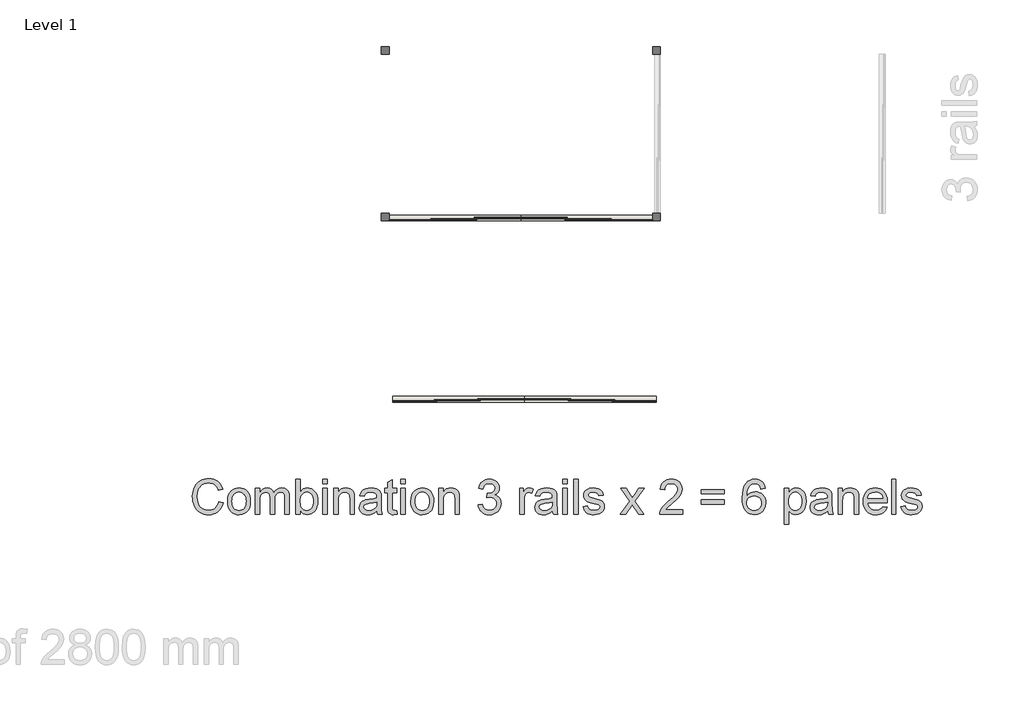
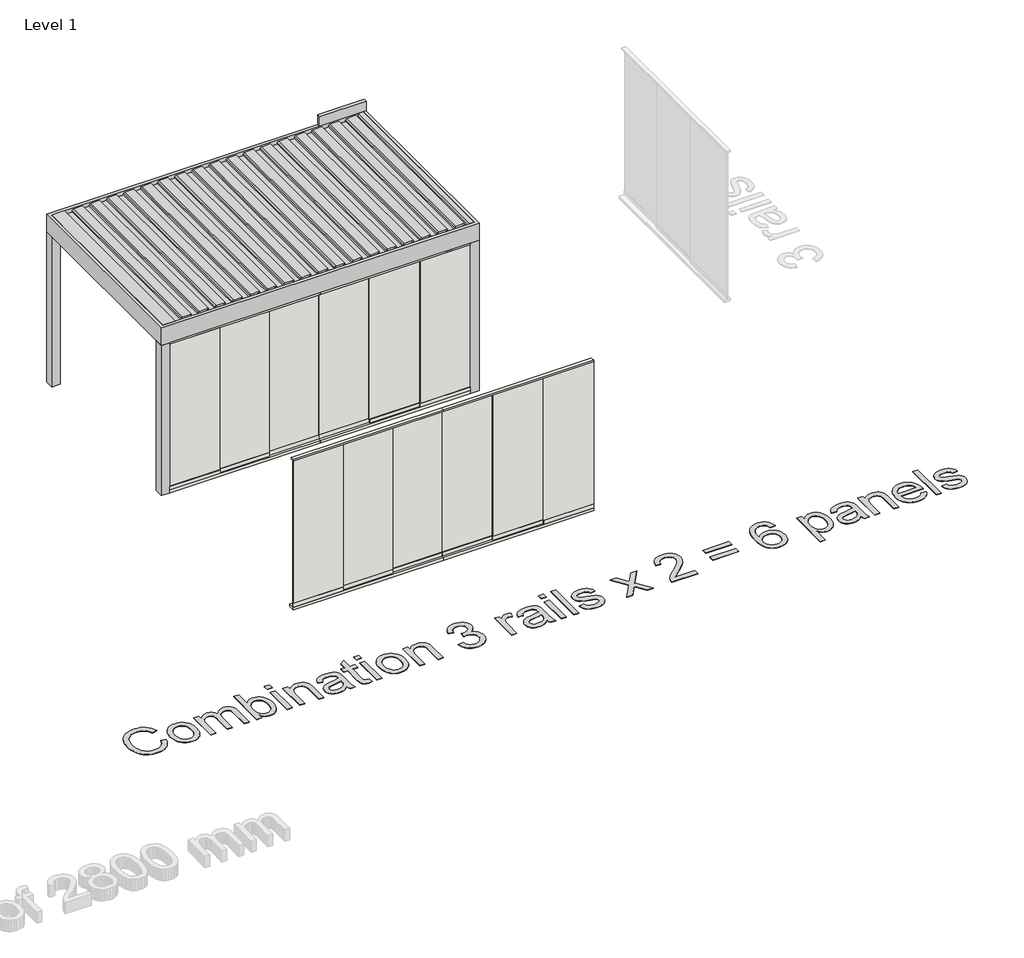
# One storey, part 8 of 47: 4 walls, 2 proxies.
"""IFC4 building model written with IfcOpenShell, lengths in millimetres."""

from ifc_helpers import new_model, si_unit, origin, origin_with_axes, place, context, project, spatial, polyline, outline, extrude, transform, mapped, element, save
from components import generic_models_6c472f40, wall_7f3c542c, wall_f5962ba5

model = new_model("IFC4")

# Units and contexts
model_context = context("Model", 3, world=origin())
ifc_project = project(units=[si_unit("LENGTHUNIT", "METRE", prefix="MILLI")], contexts=[model_context])

# Site, building, storey
site = spatial("IfcSite", under=ifc_project)
building = spatial("IfcBuilding", under=site)
storey = spatial("IfcBuildingStorey", under=building, Name="Level 1", Elevation=0.0)

# Proxies
placement = place(None, origin())
generic_models_shape = generic_models_6c472f40(model_context)
element("IfcBuildingElementProxy", 1, Name="Renson_Algarve_Single : Algarve - Single", ObjectType="Renson_Algarve_Single : Algarve - Single", at=placement, inside=storey, context=model_context, shape_type="MappedRepresentation", body=[
    mapped(generic_models_shape, transform((188362.4238385, -40247.1209465, 0.0), x_axis=(1.0, 0.0, 0.0), y_axis=(0.0, 1.0, 0.0), z_axis=(0.0, 0.0, 1.0))),
])
element("IfcBuildingElementProxy", 2, Name="500mm Arial", ObjectType="500mm Arial", at=placement, inside=storey, context=model_context, shape_type="SweptSolid", body=[
    extrude(outline(polyline([(184028.3792923, -45527.1410511), (184091.1644861, -45543.3278589), (184078.7408046, -45582.3731678), (184062.193779, -45616.4903907), (184041.5234094, -45645.6795278), (184016.7296958, -45669.9405789), (183988.3721253, -45689.0129611), (183957.0101852, -45702.6360912), (183922.6438755, -45710.8099693), (183885.2731961, -45713.5345953), (183846.9866439, -45711.4729233), (183812.4478895, -45705.2879073), (183781.6569329, -45694.9795472), (183754.6137742, -45680.5478431), (183730.9466992, -45662.2073928), (183710.2839938, -45640.1727941), (183692.625658, -45614.4440471), (183677.9716919, -45585.0211517), (183666.4638832, -45553.1763665), (183658.2440199, -45520.18195), (183653.3121019, -45486.0379024), (183651.6681292, -45450.7442235), (183653.5266997, -45412.8753706), (183659.1024112, -45377.5050496), (183668.3952637, -45344.6332605), (183681.4052571, -45314.2600032), (183697.8411517, -45286.8872835), (183717.4117074, -45263.017107), (183740.1169243, -45242.6494736), (183765.9568024, -45225.7843834), (183794.0537898, -45212.5597921), (183823.5303346, -45203.1136555), (183854.386437, -45197.4459735), (183886.6220968, -45195.5567461), (183922.5327445, -45198.0016286), (183955.4620151, -45205.3362758), (183985.4099088, -45217.560688), (184012.3764255, -45234.674865), (184035.9170411, -45256.2266185), (184055.5872315, -45281.7637603), (184071.3869968, -45311.2862905), (184083.3163369, -45344.7942088), (184020.531143, -45359.7547433), (184010.6443144, -45335.0644965), (183998.7647917, -45313.9687633), (183984.8925748, -45296.4675438), (183969.0276637, -45282.560838), (183951.078088, -45271.9650701), (183930.9518772, -45264.3966645), (183908.6490313, -45259.8556211), (183884.1695502, -45258.34194), (183856.0035849, -45260.0204016), (183830.244181, -45265.0557864), (183806.8913385, -45273.4480944), (183785.9450574, -45285.1973256), (183767.6697529, -45299.7746497), (183752.3298401, -45316.6512362), (183739.9253191, -45335.8270852), (183730.4561898, -45357.3021967), (183718.4540397, -45403.2567892), (183714.453323, -45450.6215961), (183719.1898037, -45508.624324), (183733.3992458, -45558.7789027), (183744.190451, -45580.4341231), (183757.6181438, -45599.1692801), (183773.6823243, -45614.9843738), (183792.3829924, -45627.8794041), (183834.0609567, -45645.0319022), (183879.0192022, -45650.7494015), (183906.3152798, -45648.8026926), (183931.4270581, -45642.9625659), (183954.354537, -45633.2290215), (183975.0977166, -45619.6020592), (183993.1660875, -45602.1429929), (184008.0691404, -45580.9131361), (184019.8068754, -45555.9124888), (184028.3792923, -45527.1410511)])), origin_with_axes(), (0.0, 0.0, 1.0), 5.0),
    extrude(outline(polyline([(184153.94968, -45521.2549392), (184157.3449242, -45473.4839293), (184167.5306569, -45432.3194669), (184184.5068782, -45397.7615519), (184208.2735879, -45369.8101845), (184232.201246, -45351.9449151), (184258.6121076, -45339.1840084), (184287.5061726, -45331.5274644), (184318.8834411, -45328.9752831), (184353.5218302, -45332.0831195), (184384.8416172, -45341.4066288), (184412.842802, -45356.945811), (184437.5253846, -45378.7006661), (184457.6707559, -45405.93543), (184472.0603069, -45437.9143389), (184480.6940374, -45474.6373926), (184483.5719476, -45516.1045913), (184478.4829134, -45579.5335786), (184472.1216205, -45605.568894), (184463.2158106, -45627.8180905), (184451.8766145, -45647.0360926), (184438.2151633, -45663.9778249), (184422.231457, -45678.6432874), (184403.9254957, -45691.03248), (184363.1978931, -45707.9090665), (184318.8834411, -45713.5345953), (184283.7392143, -45710.4382552), (184252.1281874, -45701.1492348), (184224.0503606, -45685.6675342), (184199.5057337, -45663.9931533), (184179.5749602, -45636.4939742), (184165.3386934, -45603.5378788), (184156.7969333, -45565.1248671), (184153.94968, -45521.2549392)]), holes=[polyline([(184216.7348738, -45521.1323119), (184218.5512911, -45551.5860433), (184224.0005432, -45577.9547517), (184233.08263, -45600.2384371), (184245.7975514, -45618.4370996), (184261.2639236, -45632.5737317), (184278.6003627, -45642.671326), (184297.8068685, -45648.7298826), (184318.8834411, -45650.7494015), (184339.8527148, -45648.7183863), (184358.9825786, -45642.6253408), (184376.2730324, -45632.4702649), (184391.7240762, -45618.2531586), (184404.4389976, -45599.8743872), (184413.5210844, -45577.2343161), (184418.9703364, -45550.3329452), (184420.7867538, -45519.1702746), (184418.9588401, -45489.6822334), (184413.4750991, -45464.0033037), (184404.3355308, -45442.1334855), (184391.5401352, -45424.0727788), (184376.0316098, -45409.9361467), (184358.7526524, -45399.8385524), (184339.7032628, -45393.7799958), (184318.8834411, -45391.7604769), (184297.8068685, -45393.7723316), (184278.6003627, -45399.8078955), (184261.2639236, -45409.8671688), (184245.7975514, -45423.9501515), (184233.08263, -45442.0951645), (184224.0005432, -45464.3405289), (184218.5512911, -45490.6862447), (184216.7348738, -45521.1323119)])]), origin_with_axes(), (0.0, 0.0, 1.0), 5.0),
    extrude(outline(polyline([(184554.2052907, -45705.6864461), (184554.2052907, -45336.8234323), (184616.9904845, -45336.8234323), (184616.9904845, -45397.5239615), (184635.8750936, -45369.6415719), (184660.1553053, -45347.7985785), (184689.0033851, -45333.6811069), (184721.5915985, -45328.9752831), (184756.5097312, -45333.7730774), (184784.4994197, -45348.1664605), (184805.4073797, -45371.2050704), (184819.0803272, -45401.9385454), (184841.965653, -45370.0171181), (184868.0699463, -45347.2160986), (184897.393207, -45333.535487), (184929.9354351, -45328.9752831), (184955.070206, -45330.8721746), (184977.1316294, -45336.5628492), (184996.1197053, -45346.0473069), (185012.0344337, -45359.3255477), (185024.6152315, -45376.5508557), (185033.6015157, -45397.8765151), (185038.9932862, -45423.3025259), (185040.790543, -45452.8288881), (185040.790543, -45705.6864461), (184978.0053491, -45705.6864461), (184978.0053491, -45479.8069011), (184976.5491496, -45448.4909462), (184972.1805509, -45427.3837168), (184963.9951765, -45412.92902), (184951.0886498, -45401.5706634), (184934.4879748, -45394.2130235), (184915.2201553, -45391.7604769), (184897.4276959, -45393.3316396), (184881.2063992, -45398.0451276), (184866.5562651, -45405.9009411), (184853.4772938, -45416.8990799), (184842.7205775, -45431.3614408), (184835.0372088, -45449.6099206), (184830.4271875, -45471.6445193), (184828.8905138, -45497.4652368), (184828.8905138, -45705.6864461), (184766.1053199, -45705.6864461), (184766.1053199, -45472.8171432), (184762.4724852, -45437.3165306), (184751.5739811, -45411.9939866), (184743.1471842, -45403.1418261), (184732.3981321, -45396.8188543), (184703.9332627, -45391.7604769), (184679.7450216, -45395.1327285), (184657.457504, -45405.2494834), (184639.0634043, -45421.8654868), (184626.5554164, -45444.7354842), (184619.3817175, -45476.4653063), (184616.9904845, -45519.6607839), (184616.9904845, -45705.6864461), (184554.2052907, -45705.6864461)])), origin_with_axes(), (0.0, 0.0, 1.0), 5.0),
    extrude(outline(polyline([(185197.7535276, -45705.6864461), (185134.9683338, -45705.6864461), (185134.9683338, -45203.4048954), (185197.7535276, -45203.4048954), (185197.7535276, -45389.6758123), (185218.4009046, -45363.1193307), (185241.715426, -45344.1504154), (185267.6970919, -45332.7690661), (185296.3459023, -45328.9752831), (185328.6888611, -45332.3935199), (185359.2537235, -45342.6482305), (185386.2930501, -45359.0956214), (185408.0594015, -45381.091899), (185425.119929, -45408.4224656), (185438.0417841, -45440.8727233), (185446.1811733, -45477.0937714), (185448.894303, -45515.7367093), (185446.0853707, -45560.3270728), (185437.6585737, -45599.5524905), (185423.6139121, -45633.4129625), (185403.9513859, -45661.9084887), (185380.3494566, -45684.4949103), (185354.486586, -45700.6280687), (185326.3627739, -45710.3079637), (185295.9780203, -45713.5345953), (185266.3865123, -45709.3729303), (185240.1519275, -45696.8879351), (185217.274266, -45676.0796097), (185197.7535276, -45646.9479542), (185197.7535276, -45705.6864461)]), holes=[polyline([(185197.7535276, -45518.6797652), (185202.0454842, -45571.0416359), (185207.41043, -45590.8766068), (185214.921354, -45606.4809347), (185230.1348074, -45625.848389), (185247.8161358, -45639.6822848), (185267.9653392, -45647.9826223), (185290.5824177, -45650.7494015), (185309.3597279, -45648.7107221), (185326.8187942, -45642.5946839), (185342.9596168, -45632.401287), (185357.7821955, -45618.1305313), (185370.1752202, -45599.8207378), (185379.0273807, -45577.5102276), (185384.338677, -45551.1990008), (185386.1091091, -45520.8870572), (185384.411487, -45490.000298), (185379.3186206, -45463.4361523), (185370.83051, -45441.19462), (185358.9471552, -45423.2757011), (185344.6572389, -45409.4877905), (185328.9494441, -45399.639283), (185311.8237708, -45393.7301784), (185293.280219, -45391.7604769), (185274.5029088, -45393.7991563), (185257.0438425, -45399.9151945), (185240.90302, -45410.1085914), (185226.0804412, -45424.3793471), (185213.6874165, -45442.5051996), (185204.835256, -45464.2638868), (185199.5239597, -45489.6554087), (185197.7535276, -45518.6797652)])]), origin_with_axes(), (0.0, 0.0, 1.0), 5.0),
    extrude(outline(polyline([(185519.527646, -45705.6864461), (185519.527646, -45336.8234323), (185582.3128399, -45336.8234323), (185582.3128399, -45705.6864461), (185519.527646, -45705.6864461)])), origin_with_axes(), (0.0, 0.0, 1.0), 5.0),
    extrude(outline(polyline([(185519.527646, -45266.1900892), (185519.527646, -45203.4048954), (185582.3128399, -45203.4048954), (185582.3128399, -45266.1900892), (185519.527646, -45266.1900892)])), origin_with_axes(), (0.0, 0.0, 1.0), 5.0),
    extrude(outline(polyline([(185676.4906307, -45705.6864461), (185676.4906307, -45336.8234323), (185739.2758245, -45336.8234323), (185739.2758245, -45388.3269116), (185761.0881611, -45362.3605741), (185787.2844249, -45343.8131902), (185817.8646157, -45332.6847598), (185852.8287337, -45328.9752831), (185883.7768065, -45331.9643243), (185912.1190486, -45340.9314479), (185935.7554668, -45354.7576795), (185952.586068, -45372.3240448), (185964.0057383, -45393.5845585), (185971.4093635, -45418.4932352), (185974.7203014, -45479.1937644), (185974.7203014, -45705.6864461), (185911.9351076, -45705.6864461), (185911.9351076, -45487.6550503), (185910.1263544, -45455.1894642), (185904.700095, -45432.104869), (185894.690639, -45415.5655077), (185879.1322963, -45402.7356231), (185859.1900265, -45394.5042634), (185836.0287892, -45391.7604769), (185816.9640713, -45393.3009827), (185799.2559181, -45397.9225003), (185782.9043299, -45405.6250296), (185767.9093065, -45416.4085706), (185755.3821581, -45431.4993966), (185746.434195, -45452.1237809), (185741.0654171, -45478.2817236), (185739.2758245, -45509.9732247), (185739.2758245, -45705.6864461), (185676.4906307, -45705.6864461)])), origin_with_axes(), (0.0, 0.0, 1.0), 5.0),
    extrude(outline(polyline([(186296.4944199, -45658.5975507), (186266.4967088, -45684.3186336), (186235.6099497, -45701.1492348), (186203.1290352, -45710.4382552), (186168.3488582, -45713.5345953), (186140.3936587, -45711.6721927), (186115.8796886, -45706.0849849), (186094.8069481, -45696.7729719), (186077.1754371, -45683.7361537), (186063.2534028, -45667.8022648), (186053.3090926, -45649.7990397), (186047.3425065, -45629.7264783), (186045.3536445, -45607.5845807), (186048.3580141, -45581.5569296), (186057.371123, -45557.9205114), (186071.2739967, -45537.6870016), (186088.9476609, -45521.8680759), (186109.7176652, -45509.911911), (186132.9095593, -45501.2666841), (186187.2334673, -45491.8243796), (186251.4288755, -45481.8915657), (186296.1265379, -45470.2419692), (186296.4944199, -45456.2624534), (186292.1718064, -45428.2421081), (186279.2039661, -45409.909322), (186266.1288268, -45401.9692023), (186250.2026021, -45396.2976882), (186209.7968963, -45391.7604769), (186172.3955602, -45394.7801749), (186146.2759385, -45403.8392691), (186128.4643186, -45420.5932283), (186115.9869876, -45446.6975215), (186053.2017937, -45438.8493723), (186064.1002978, -45404.5137194), (186080.3637477, -45377.5357064), (186103.5096566, -45356.9036579), (186135.0555376, -45341.6058982), (186173.6371619, -45332.1329368), (186217.8903002, -45328.9752831), (186260.3346854, -45331.7650548), (186293.9805596, -45340.1343702), (186319.3490888, -45352.7190002), (186336.9614393, -45368.1547155), (186348.6416927, -45387.238594), (186356.2139304, -45410.7677133), (186359.2796137, -45465.7047579), (186359.2796137, -45543.8183682), (186362.4679243, -45652.8953798), (186367.1890766, -45679.8580644), (186374.9759122, -45705.6864461), (186312.1907183, -45705.6864461), (186302.1352771, -45683.8587811), (186296.4944199, -45658.5975507)]), holes=[polyline([(186296.4944199, -45533.027163), (186254.3106177, -45543.4811431), (186195.2042439, -45552.2796541), (186141.1869042, -45562.4577227), (186127.1307463, -45569.4168237), (186116.7227516, -45579.0124124), (186110.2848166, -45590.5087248), (186108.1388383, -45603.1699968), (186112.8140054, -45621.840008), (186126.8395064, -45637.1377677), (186149.9087732, -45647.346493), (186181.7152374, -45650.7494015), (186215.4377536, -45646.9939395), (186245.2361952, -45635.7275534), (186269.3937796, -45619.1268783), (186286.193724, -45599.3685495), (186293.6433344, -45579.0124124), (186296.1265379, -45550.8081261), (186296.4944199, -45533.027163)])]), origin_with_axes(), (0.0, 0.0, 1.0), 5.0),
    extrude(outline(polyline([(186579.0277922, -45653.3245755), (186586.8759414, -45707.5258561), (186539.9096733, -45713.5345953), (186509.7740066, -45710.9287645), (186487.302548, -45703.1112721), (186471.4223086, -45691.0631368), (186461.060299, -45675.7653772), (186455.3581281, -45649.4924713), (186453.4574045, -45604.5188974), (186453.4574045, -45399.6086261), (186406.3685091, -45399.6086261), (186406.3685091, -45336.8234323), (186453.4574045, -45336.8234323), (186453.4574045, -45247.1828528), (186516.2425983, -45210.2720259), (186516.2425983, -45336.8234323), (186579.0277922, -45336.8234323), (186579.0277922, -45399.6086261), (186516.2425983, -45399.6086261), (186516.2425983, -45602.6794875), (186519.5535363, -45635.053103), (186530.2834278, -45646.5187586), (186551.6818972, -45650.7494015), (186579.0277922, -45653.3245755)])), origin_with_axes(), (0.0, 0.0, 1.0), 5.0),
    extrude(outline(polyline([(186641.812986, -45705.6864461), (186641.812986, -45336.8234323), (186704.5981798, -45336.8234323), (186704.5981798, -45705.6864461), (186641.812986, -45705.6864461)])), origin_with_axes(), (0.0, 0.0, 1.0), 5.0),
    extrude(outline(polyline([(186641.812986, -45266.1900892), (186641.812986, -45203.4048954), (186704.5981798, -45203.4048954), (186704.5981798, -45266.1900892), (186641.812986, -45266.1900892)])), origin_with_axes(), (0.0, 0.0, 1.0), 5.0),
    extrude(outline(polyline([(186783.0796722, -45521.2549392), (186786.4749164, -45473.4839293), (186796.6606491, -45432.3194669), (186813.6368704, -45397.7615519), (186837.4035801, -45369.8101845), (186861.3312382, -45351.9449151), (186887.7420998, -45339.1840084), (186916.6361648, -45331.5274644), (186948.0134333, -45328.9752831), (186982.6518224, -45332.0831195), (187013.9716094, -45341.4066288), (187041.9727942, -45356.945811), (187066.6553768, -45378.7006661), (187086.8007481, -45405.93543), (187101.1902991, -45437.9143389), (187109.8240296, -45474.6373926), (187112.7019398, -45516.1045913), (187107.6129056, -45579.5335786), (187101.2516127, -45605.568894), (187092.3458028, -45627.8180905), (187081.0066067, -45647.0360926), (187067.3451555, -45663.9778249), (187051.3614492, -45678.6432874), (187033.0554879, -45691.03248), (186992.3278853, -45707.9090665), (186948.0134333, -45713.5345953), (186912.8692065, -45710.4382552), (186881.2581796, -45701.1492348), (186853.1803528, -45685.6675342), (186828.6357259, -45663.9931533), (186808.7049524, -45636.4939742), (186794.4686856, -45603.5378788), (186785.9269255, -45565.1248671), (186783.0796722, -45521.2549392)]), holes=[polyline([(186845.864866, -45521.1323119), (186847.6812833, -45551.5860433), (186853.1305354, -45577.9547517), (186862.2126222, -45600.2384371), (186874.9275436, -45618.4370996), (186890.3939158, -45632.5737317), (186907.7303548, -45642.671326), (186926.9368607, -45648.7298826), (186948.0134333, -45650.7494015), (186968.982707, -45648.7183863), (186988.1125708, -45642.6253408), (187005.4030246, -45632.4702649), (187020.8540684, -45618.2531586), (187033.5689898, -45599.8743872), (187042.6510766, -45577.2343161), (187048.1003286, -45550.3329452), (187049.916746, -45519.1702746), (187048.0888323, -45489.6822334), (187042.6050913, -45464.0033037), (187033.465523, -45442.1334855), (187020.6701274, -45424.0727788), (187005.161602, -45409.9361467), (186987.8826445, -45399.8385524), (186968.833255, -45393.7799958), (186948.0134333, -45391.7604769), (186926.9368607, -45393.7723316), (186907.7303548, -45399.8078955), (186890.3939158, -45409.8671688), (186874.9275436, -45423.9501515), (186862.2126222, -45442.0951645), (186853.1305354, -45464.3405289), (186847.6812833, -45490.6862447), (186845.864866, -45521.1323119)])]), origin_with_axes(), (0.0, 0.0, 1.0), 5.0),
    extrude(outline(polyline([(187183.3352829, -45705.6864461), (187183.3352829, -45336.8234323), (187246.1204767, -45336.8234323), (187246.1204767, -45388.3269116), (187267.9328134, -45362.3605741), (187294.1290771, -45343.8131902), (187324.709268, -45332.6847598), (187359.6733859, -45328.9752831), (187390.6214588, -45331.9643243), (187418.9637008, -45340.9314479), (187442.600119, -45354.7576795), (187459.4307203, -45372.3240448), (187470.8503905, -45393.5845585), (187478.2540157, -45418.4932352), (187481.5649537, -45479.1937644), (187481.5649537, -45705.6864461), (187418.7797598, -45705.6864461), (187418.7797598, -45487.6550503), (187416.9710067, -45455.1894642), (187411.5447472, -45432.104869), (187401.5352913, -45415.5655077), (187385.9769486, -45402.7356231), (187366.0346788, -45394.5042634), (187342.8734415, -45391.7604769), (187323.8087235, -45393.3009827), (187306.1005704, -45397.9225003), (187289.7489821, -45405.6250296), (187274.7539587, -45416.4085706), (187262.2268103, -45431.4993966), (187253.2788472, -45452.1237809), (187247.9100694, -45478.2817236), (187246.1204767, -45509.9732247), (187246.1204767, -45705.6864461), (187183.3352829, -45705.6864461)])), origin_with_axes(), (0.0, 0.0, 1.0), 5.0),
    extrude(outline(polyline([(187748.4020275, -45572.2679092), (187811.1872213, -45564.41976), (187825.2433792, -45603.8751039), (187834.7201727, -45618.7973174), (187845.8294426, -45630.5158918), (187858.8241076, -45639.3680523), (187873.9570868, -45645.6910241), (187910.6379874, -45650.7494015), (187933.3853574, -45649.0096262), (187953.6801808, -45643.7903004), (187971.5224576, -45635.0914241), (187986.9121877, -45622.9129972), (187999.3052124, -45608.1670606), (188008.1573729, -45591.7656549), (188013.4686692, -45573.7087803), (188015.2391013, -45553.9964368), (188013.4839976, -45535.2229587), (188008.2186866, -45518.1432707), (187999.4431682, -45502.7573726), (187987.1574424, -45489.0652646), (187972.1662511, -45477.8257032), (187955.2743361, -45469.7974451), (187936.4816975, -45464.9804902), (187915.7883353, -45463.3748386), (187871.7651232, -45470.2419692), (187878.7548811, -45407.4567754), (187888.8103223, -45408.1925393), (187926.4262563, -45403.6859849), (187960.0568021, -45390.1663216), (187973.8983621, -45379.9422678), (187983.7851907, -45367.2963242), (187989.7172879, -45352.2284908), (187991.6946536, -45334.7387676), (187985.9618259, -45307.6227989), (187968.7633426, -45285.6265213), (187942.5210936, -45271.0491972), (187909.6569687, -45266.1900892), (187876.7315301, -45271.0951825), (187849.8148308, -45285.8104623), (187838.9239909, -45296.8469221), (187830.1638009, -45310.3359286), (187819.0353706, -45344.6715815), (187756.2501767, -45336.8234323), (187763.6921229, -45306.8487139), (187774.736247, -45280.4455165), (187789.3825489, -45257.6138402), (187807.6310287, -45238.3536849), (187828.9068708, -45223.0635895), (187852.6352595, -45212.1420927), (187878.8161948, -45205.5891947), (187907.4496767, -45203.4048954), (187946.9203491, -45207.7121804), (187983.1720541, -45220.6340355), (188013.7369165, -45241.0208294), (188036.1470614, -45267.7229309), (188049.896651, -45298.4870627), (188054.4798475, -45331.0599477), (188050.1265772, -45361.4102123), (188037.0667664, -45388.9400483), (188015.484356, -45412.3925255), (187985.5632871, -45430.5107137), (188006.4865755, -45437.0559476), (188024.8653469, -45446.3909532), (188040.6996011, -45458.5157306), (188053.9893382, -45473.4302798), (188064.5046318, -45490.7667188), (188072.0155559, -45510.1571657), (188076.5221104, -45531.6016203), (188078.0242952, -45555.1000828), (188075.0199255, -45586.9525322), (188066.0068167, -45616.2911213), (188050.9849685, -45643.1158501), (188029.9543811, -45667.4267186), (188004.332933, -45687.5989147), (187975.5385027, -45702.0076262), (187943.5710901, -45710.652853), (187908.4306954, -45713.5345953), (187876.6702165, -45711.0743845), (187847.7301662, -45703.693752), (187821.6105445, -45691.3926978), (187798.3113515, -45674.1712219), (187778.7752847, -45653.0409998), (187763.9450418, -45629.013707), (187753.8206227, -45602.0893434), (187748.4020275, -45572.2679092)])), origin_with_axes(), (0.0, 0.0, 1.0), 5.0),
    extrude(outline(polyline([(188344.861369, -45705.6864461), (188344.861369, -45336.8234323), (188399.7984136, -45336.8234323), (188399.7984136, -45391.3925949), (188420.093237, -45359.7547433), (188438.7939051, -45341.1153889), (188457.5558869, -45332.0103095), (188478.0346513, -45328.9752831), (188509.3046209, -45333.8190627), (188541.0650998, -45348.3504015), (188520.095826, -45404.6363467), (188498.0229063, -45394.9794444), (188475.9499866, -45391.7604769), (188457.2033333, -45394.856817), (188440.4493741, -45404.1458374), (188426.9143823, -45418.9224309), (188417.8246314, -45438.4814903), (188410.19108, -45473.5529072), (188407.6465629, -45511.8126347), (188407.6465629, -45705.6864461), (188344.861369, -45705.6864461)])), origin_with_axes(), (0.0, 0.0, 1.0), 5.0),
    extrude(outline(polyline([(188815.7503228, -45658.5975507), (188785.7526118, -45684.3186336), (188754.8658526, -45701.1492348), (188722.3849381, -45710.4382552), (188687.6047612, -45713.5345953), (188659.6495617, -45711.6721927), (188635.1355916, -45706.0849849), (188614.0628511, -45696.7729719), (188596.43134, -45683.7361537), (188582.5093058, -45667.8022648), (188572.5649956, -45649.7990397), (188566.5984095, -45629.7264783), (188564.6095475, -45607.5845807), (188567.6139171, -45581.5569296), (188576.627026, -45557.9205114), (188590.5298997, -45537.6870016), (188608.2035639, -45521.8680759), (188628.9735682, -45509.911911), (188652.1654623, -45501.2666841), (188706.4893703, -45491.8243796), (188770.6847784, -45481.8915657), (188815.3824408, -45470.2419692), (188815.7503228, -45456.2624534), (188811.4277094, -45428.2421081), (188798.4598691, -45409.909322), (188785.3847298, -45401.9692023), (188769.4585051, -45396.2976882), (188729.0527993, -45391.7604769), (188691.6514631, -45394.7801749), (188665.5318415, -45403.8392691), (188647.7202215, -45420.5932283), (188635.2428905, -45446.6975215), (188572.4576967, -45438.8493723), (188583.3562008, -45404.5137194), (188599.6196507, -45377.5357064), (188622.7655595, -45356.9036579), (188654.3114406, -45341.6058982), (188692.8930649, -45332.1329368), (188737.1462032, -45328.9752831), (188779.5905884, -45331.7650548), (188813.2364625, -45340.1343702), (188838.6049918, -45352.7190002), (188856.2173423, -45368.1547155), (188867.8975957, -45387.238594), (188875.4698334, -45410.7677133), (188878.5355167, -45465.7047579), (188878.5355167, -45543.8183682), (188881.7238273, -45652.8953798), (188886.4449796, -45679.8580644), (188894.2318151, -45705.6864461), (188831.4466213, -45705.6864461), (188821.3911801, -45683.8587811), (188815.7503228, -45658.5975507)]), holes=[polyline([(188815.7503228, -45533.027163), (188773.5665207, -45543.4811431), (188714.4601468, -45552.2796541), (188660.4428072, -45562.4577227), (188646.3866493, -45569.4168237), (188635.9786545, -45579.0124124), (188629.5407196, -45590.5087248), (188627.3947413, -45603.1699968), (188632.0699083, -45621.840008), (188646.0954094, -45637.1377677), (188669.1646762, -45647.346493), (188700.9711403, -45650.7494015), (188734.6936566, -45646.9939395), (188764.4920982, -45635.7275534), (188788.6496825, -45619.1268783), (188805.449627, -45599.3685495), (188812.8992374, -45579.0124124), (188815.3824408, -45550.8081261), (188815.7503228, -45533.027163)])]), origin_with_axes(), (0.0, 0.0, 1.0), 5.0),
    extrude(outline(polyline([(188964.8651582, -45266.1900892), (188964.8651582, -45203.4048954), (189027.6503521, -45203.4048954), (189027.6503521, -45266.1900892), (188964.8651582, -45266.1900892)])), origin_with_axes(), (0.0, 0.0, 1.0), 5.0),
    extrude(outline(polyline([(188964.8651582, -45705.6864461), (188964.8651582, -45336.8234323), (189027.6503521, -45336.8234323), (189027.6503521, -45705.6864461), (188964.8651582, -45705.6864461)])), origin_with_axes(), (0.0, 0.0, 1.0), 5.0),
    extrude(outline(polyline([(189121.8281428, -45705.6864461), (189121.8281428, -45203.4048954), (189184.6133367, -45203.4048954), (189184.6133367, -45705.6864461), (189121.8281428, -45705.6864461)])), origin_with_axes(), (0.0, 0.0, 1.0), 5.0),
    extrude(outline(polyline([(189255.2466797, -45595.8123569), (189318.0318736, -45587.9642077), (189327.9340306, -45614.8195933), (189347.0945512, -45634.5625937), (189375.6360627, -45646.7026996), (189413.6811923, -45650.7494015), (189451.2664695, -45647.0399247), (189477.6926595, -45635.9114944), (189493.3276443, -45619.7860002), (189498.5393059, -45601.0853322), (189493.2969875, -45585.0824654), (189477.5700322, -45572.8810459), (189412.9454283, -45554.9774554), (189355.6478076, -45538.4074372), (189318.3997556, -45524.2593088), (189294.4720975, -45508.8235934), (189277.1356585, -45488.3908143), (189266.6050363, -45464.2638868), (189263.094829, -45437.7457263), (189265.9152576, -45413.4195294), (189274.3765435, -45390.9633992), (189287.7122658, -45371.2663841), (189305.1560038, -45355.217532), (189322.4924428, -45345.1161056), (189345.0712002, -45336.6394913), (189371.1754935, -45330.8913351), (189399.0885399, -45328.9752831), (189439.9540981, -45332.0562948), (189475.4853675, -45341.2993299), (189504.0575358, -45355.8000119), (189524.0457909, -45374.6539641), (189537.2895427, -45399.2560725), (189545.6282013, -45431.001223), (189482.8430074, -45438.8493723), (189474.9182161, -45419.0910435), (189459.2372461, -45404.2071511), (189435.6468131, -45394.8721454), (189403.9936331, -45391.7604769), (189367.9411976, -45394.7341897), (189343.9062406, -45403.6553281), (189330.3865773, -45416.5311979), (189325.8800228, -45431.369105), (189327.7500896, -45441.0260074), (189333.36029, -45449.6405775), (189342.9558788, -45457.3354425), (189356.7821104, -45463.497466), (189410.8607637, -45476.8638451), (189503.0152035, -45506.4170321), (189527.3567288, -45520.549832), (189545.8121423, -45539.8942936), (189557.4464104, -45564.5117305), (189561.3244997, -45594.4634562), (189556.77196, -45625.4268575), (189543.114341, -45654.5508488), (189520.8728087, -45679.551496), (189490.5685293, -45698.1448652), (189453.9642708, -45709.6871628), (189412.822801, -45713.5345953), (189379.0313069, -45711.679857), (189349.516441, -45706.1156418), (189324.2782033, -45696.8419498), (189303.3165938, -45683.8587811), (189286.1947526, -45667.2274492), (189272.4758198, -45647.0092679), (189262.1597956, -45623.2042371), (189255.2466797, -45595.8123569)])), origin_with_axes(), (0.0, 0.0, 1.0), 5.0),
    extrude(outline(polyline([(189788.9208274, -45705.6864461), (189923.0751283, -45520.2739205), (189796.7689766, -45336.8234323), (189872.307413, -45336.8234323), (189933.2531968, -45425.1151111), (189961.7027378, -45466.8084039), (189986.3508315, -45432.7180057), (190055.7579012, -45336.8234323), (190131.2963376, -45336.8234323), (189998.6135647, -45520.2739205), (190126.3912443, -45705.6864461), (190050.852808, -45705.6864461), (189973.965471, -45594.2182016), (189959.8633278, -45573.8620645), (189864.4592638, -45705.6864461), (189788.9208274, -45705.6864461)])), origin_with_axes(), (0.0, 0.0, 1.0), 5.0),
    extrude(outline(polyline([(190683.6098397, -45642.9012523), (190683.6098397, -45705.6864461), (190353.987572, -45705.6864461), (190355.3671295, -45683.5828696), (190360.7320752, -45662.398998), (190376.2137759, -45628.5691829), (190398.8691754, -45595.7510432), (190431.6413298, -45561.4000619), (190477.473295, -45522.9717218), (190545.2248958, -45462.7923588), (190585.8758563, -45418.3706079), (190606.2013365, -45382.3181724), (190611.2827066, -45364.6598366), (190612.9764966, -45347.2467555), (190611.3785092, -45330.8645104), (190606.5845469, -45315.8081733), (190598.5946099, -45302.0777443), (190587.4086979, -45289.6732232), (190573.6476121, -45279.3993521), (190557.9321531, -45272.0608727), (190540.262321, -45267.6577851), (190520.6381158, -45266.1900892), (190481.4740117, -45271.922917), (190465.1684087, -45279.0889517), (190451.0471051, -45289.1214002), (190439.6236027, -45301.6830375), (190431.4114036, -45316.4366384), (190426.4105077, -45333.3822028), (190424.6209151, -45352.5197307), (190361.8357212, -45344.6715815), (190367.2351559, -45312.2596449), (190377.0568388, -45283.9403955), (190391.3007698, -45259.7138333), (190409.9669489, -45239.5799582), (190432.6261806, -45223.7533682), (190458.849269, -45212.4486611), (190488.6362143, -45205.6658368), (190521.9870165, -45203.4048954), (190555.6367227, -45205.9187557), (190585.5846164, -45213.4603366), (190611.8306975, -45226.0296381), (190634.374966, -45243.6266602), (190652.4816579, -45264.9484875), (190665.4150093, -45288.6922046), (190673.1750202, -45314.8578115), (190675.7616904, -45343.4453082), (190672.9719187, -45373.4736761), (190664.6026033, -45402.9808777), (190649.7493677, -45432.9939172), (190627.5078354, -45464.5397983), (190592.0532081, -45502.2017175), (190537.5606876, -45550.5628715), (190465.3331892, -45610.9568324), (190437.0062756, -45642.9012523), (190683.6098397, -45642.9012523)])), origin_with_axes(), (0.0, 0.0, 1.0), 5.0),
    extrude(outline(polyline([(191280.0691812, -45415.3049246), (190950.4469135, -45415.3049246), (190950.4469135, -45352.5197307), (191280.0691812, -45352.5197307), (191280.0691812, -45415.3049246)])), origin_with_axes(), (0.0, 0.0, 1.0), 5.0),
    extrude(outline(polyline([(191280.0691812, -45564.41976), (190950.4469135, -45564.41976), (190950.4469135, -45501.6345661), (191280.0691812, -45501.6345661), (191280.0691812, -45564.41976)])), origin_with_axes(), (0.0, 0.0, 1.0), 5.0),
    extrude(outline(polyline([(191868.6803735, -45336.8234323), (191805.8951796, -45344.6715815), (191795.7784248, -45313.5548961), (191782.1054773, -45292.3097109), (191768.6088066, -45280.8823764), (191753.6252795, -45272.7199946), (191737.154896, -45267.8225656), (191719.1976561, -45266.1900892), (191690.0123511, -45269.9915365), (191662.5438288, -45281.3958783), (191638.9533959, -45305.4155069), (191619.6855764, -45338.4789013), (191612.1554918, -45359.5669702), (191606.6717508, -45385.2458999), (191601.8432996, -45450.3763415), (191627.0278879, -45420.9917671), (191657.2095399, -45400.2830764), (191690.7021299, -45388.0050149), (191725.819532, -45383.9123277), (191755.9858556, -45386.7097637), (191783.8222599, -45395.1020717), (191809.3287449, -45409.0892517), (191832.5053106, -45428.6713037), (191851.7654659, -45452.6832681), (191865.5227197, -45479.9601852), (191873.7770719, -45510.502055), (191876.5285227, -45544.3088776), (191871.3475179, -45589.2671231), (191855.8045036, -45630.9450874), (191831.1870668, -45666.2924158), (191798.7827944, -45692.2587533), (191760.0632144, -45708.2156348), (191716.4998548, -45713.5345953), (191679.0716939, -45710.0090596), (191645.2687035, -45699.4324522), (191615.0908836, -45681.8047733), (191588.5382341, -45657.1260227), (191566.890678, -45624.3538683), (191551.4281379, -45582.4459777), (191542.1506138, -45531.4023509), (191539.0581058, -45471.2229879), (191542.4916711, -45403.7549628), (191552.7923669, -45346.1737663), (191569.9601934, -45298.4793985), (191593.9951504, -45260.6718593), (191620.0457942, -45235.6175626), (191650.2504388, -45217.7216363), (191684.6090843, -45206.9840806), (191723.1217307, -45203.4048954), (191752.0387884, -45205.6198515), (191778.2120595, -45212.2647201), (191801.6415441, -45223.339501), (191822.3272421, -45238.8441942), (191839.7096664, -45258.2576337), (191853.2293297, -45281.0586532), (191862.8862321, -45307.2472527), (191868.6803735, -45336.8234323)]), holes=[polyline([(191601.8432996, -45543.3278589), (191605.4761343, -45571.1489348), (191616.3746384, -45597.7130805), (191633.2972102, -45620.5524211), (191655.0022479, -45637.1990813), (191681.1985117, -45647.3618215), (191711.5947615, -45650.7494015), (191733.4185945, -45648.9942978), (191753.0274712, -45643.7289868), (191770.4213918, -45634.9534683), (191785.6003562, -45622.6677425), (191797.9129068, -45607.3699829), (191806.7075857, -45589.558363), (191811.9843931, -45569.2328827), (191813.7433289, -45546.3935422), (191812.0073857, -45524.4470819), (191806.7995562, -45504.9608325), (191798.1198404, -45487.9347939), (191785.9682382, -45473.3689662), (191770.7432886, -45461.7002091), (191752.8435302, -45453.3653827), (191732.2689632, -45448.3644868), (191709.0195876, -45446.6975215), (191687.4869945, -45448.3644868), (191667.6481915, -45453.3653827), (191649.5031785, -45461.7002091), (191633.0519556, -45473.3689662), (191619.3981686, -45487.7431887), (191609.6454636, -45504.1944117), (191603.7938406, -45522.7226351), (191601.8432996, -45543.3278589)])]), origin_with_axes(), (0.0, 0.0, 1.0), 5.0),
    extrude(outline(polyline([(192143.3655965, -45846.9531323), (192143.3655965, -45336.8234323), (192206.1507904, -45336.8234323), (192206.1507904, -45398.3823528), (192226.6295548, -45368.0167598), (192249.5608658, -45346.3270505), (192276.2936241, -45333.3132249), (192308.1767304, -45328.9752831), (192330.0733733, -45330.4927963), (192350.636444, -45335.045336), (192369.8659424, -45342.6329021), (192387.7618687, -45353.2554947), (192403.933348, -45366.6372023), (192417.9895059, -45382.5021133), (192439.7558573, -45421.6815458), (192452.9076386, -45467.9427067), (192457.2915658, -45518.4345106), (192452.3404872, -45572.1299534), (192437.4872517, -45620.1538822), (192426.4661202, -45641.4297243), (192413.20704, -45660.0690787), (192397.710011, -45676.0719455), (192379.9750331, -45689.4383247), (192341.2707815, -45707.5105277), (192300.5738358, -45713.5345953), (192271.7104276, -45709.5032218), (192245.9433595, -45697.4091012), (192223.8857682, -45679.1529572), (192206.1507904, -45656.6355134), (192206.1507904, -45846.9531323), (192143.3655965, -45846.9531323)]), holes=[polyline([(192206.1507904, -45524.1979952), (192207.8484125, -45554.4562893), (192212.9412789, -45580.4839404), (192221.4293895, -45602.2809486), (192233.3127444, -45619.8473139), (192247.617989, -45633.3669772), (192263.371769, -45643.0238796), (192280.5740844, -45648.818021), (192299.2249352, -45650.7494015), (192318.1440332, -45648.7490432), (192335.6605811, -45642.7479681), (192351.7745789, -45632.7461764), (192366.4860266, -45618.7436679), (192378.7449277, -45600.5411734), (192387.5012856, -45577.9394233), (192392.7551003, -45550.9384177), (192394.5063719, -45519.5381566), (192392.7972535, -45489.5404455), (192387.6698982, -45463.5587796), (192379.124306, -45441.5931588), (192367.1604769, -45423.6435831), (192352.8207433, -45409.6947242), (192337.1474375, -45399.7312535), (192320.1405594, -45393.753171), (192301.8001091, -45391.7604769), (192283.5171404, -45393.8796305), (192266.314825, -45400.2370912), (192250.193163, -45410.8328591), (192235.1521543, -45425.6669341), (192222.4640576, -45444.5400469), (192213.4011314, -45467.252928), (192207.9633756, -45493.8055774), (192206.1507904, -45524.1979952)])]), origin_with_axes(), (0.0, 0.0, 1.0), 5.0),
    extrude(outline(polyline([(192763.3693857, -45658.5975507), (192733.3716747, -45684.3186336), (192702.4849155, -45701.1492348), (192670.0040011, -45710.4382552), (192635.2238241, -45713.5345953), (192607.2686246, -45711.6721927), (192582.7546545, -45706.0849849), (192561.681914, -45696.7729719), (192544.050403, -45683.7361537), (192530.1283687, -45667.8022648), (192520.1840585, -45649.7990397), (192514.2174724, -45629.7264783), (192512.2286104, -45607.5845807), (192515.23298, -45581.5569296), (192524.2460889, -45557.9205114), (192538.1489626, -45537.6870016), (192555.8226268, -45521.8680759), (192576.5926311, -45509.911911), (192599.7845252, -45501.2666841), (192654.1084332, -45491.8243796), (192718.3038413, -45481.8915657), (192763.0015037, -45470.2419692), (192763.3693857, -45456.2624534), (192759.0467723, -45428.2421081), (192746.078932, -45409.909322), (192733.0037927, -45401.9692023), (192717.077568, -45396.2976882), (192676.6718622, -45391.7604769), (192639.270526, -45394.7801749), (192613.1509044, -45403.8392691), (192595.3392844, -45420.5932283), (192582.8619534, -45446.6975215), (192520.0767596, -45438.8493723), (192530.9752637, -45404.5137194), (192547.2387136, -45377.5357064), (192570.3846224, -45356.9036579), (192601.9305035, -45341.6058982), (192640.5121278, -45332.1329368), (192684.7652661, -45328.9752831), (192727.2096513, -45331.7650548), (192760.8555254, -45340.1343702), (192786.2240547, -45352.7190002), (192803.8364052, -45368.1547155), (192815.5166586, -45387.238594), (192823.0888963, -45410.7677133), (192826.1545796, -45465.7047579), (192826.1545796, -45543.8183682), (192829.3428902, -45652.8953798), (192834.0640425, -45679.8580644), (192841.850878, -45705.6864461), (192779.0656842, -45705.6864461), (192769.010243, -45683.8587811), (192763.3693857, -45658.5975507)]), holes=[polyline([(192763.3693857, -45533.027163), (192721.1855836, -45543.4811431), (192662.0792097, -45552.2796541), (192608.0618701, -45562.4577227), (192594.0057122, -45569.4168237), (192583.5977174, -45579.0124124), (192577.1597825, -45590.5087248), (192575.0138042, -45603.1699968), (192579.6889712, -45621.840008), (192593.7144723, -45637.1377677), (192616.7837391, -45647.346493), (192648.5902032, -45650.7494015), (192682.3127195, -45646.9939395), (192712.1111611, -45635.7275534), (192736.2687454, -45619.1268783), (192753.0686899, -45599.3685495), (192760.5183003, -45579.0124124), (192763.0015037, -45550.8081261), (192763.3693857, -45533.027163)])]), origin_with_axes(), (0.0, 0.0, 1.0), 5.0),
    extrude(outline(polyline([(192912.4842211, -45705.6864461), (192912.4842211, -45336.8234323), (192975.269415, -45336.8234323), (192975.269415, -45388.3269116), (192997.0817516, -45362.3605741), (193023.2780153, -45343.8131902), (193053.8582062, -45332.6847598), (193088.8223241, -45328.9752831), (193119.770397, -45331.9643243), (193148.112639, -45340.9314479), (193171.7490572, -45354.7576795), (193188.5796585, -45372.3240448), (193199.9993288, -45393.5845585), (193207.4029539, -45418.4932352), (193210.7138919, -45479.1937644), (193210.7138919, -45705.6864461), (193147.928698, -45705.6864461), (193147.928698, -45487.6550503), (193146.1199449, -45455.1894642), (193140.6936855, -45432.104869), (193130.6842295, -45415.5655077), (193115.1258868, -45402.7356231), (193095.183617, -45394.5042634), (193072.0223797, -45391.7604769), (193052.9576617, -45393.3009827), (193035.2495086, -45397.9225003), (193018.8979203, -45405.6250296), (193003.9028969, -45416.4085706), (192991.3757486, -45431.4993966), (192982.4277855, -45452.1237809), (192977.0590076, -45478.2817236), (192975.269415, -45509.9732247), (192975.269415, -45705.6864461), (192912.4842211, -45705.6864461)])), origin_with_axes(), (0.0, 0.0, 1.0), 5.0),
    extrude(outline(polyline([(193555.296694, -45595.8123569), (193616.8556146, -45603.6605061), (193607.4171421, -45628.316264), (193594.6753959, -45650.0442943), (193578.630376, -45668.8445971), (193559.2820823, -45684.7171724), (193536.8297843, -45697.3247949), (193511.4727514, -45706.3302396), (193483.2109835, -45711.7335064), (193452.0444807, -45713.5345953), (193413.0873103, -45710.4267589), (193378.3761112, -45701.1032496), (193347.9108835, -45685.5640674), (193321.6916271, -45663.8092123), (193300.6073902, -45636.4441568), (193285.5472211, -45604.0743734), (193276.5111196, -45566.6998619), (193273.4990857, -45524.3206225), (193276.5417764, -45480.504344), (193285.6698484, -45441.8843987), (193300.8833017, -45408.4607866), (193322.1821364, -45380.2335077), (193348.3324149, -45357.8080344), (193378.1001997, -45341.7898392), (193411.4854907, -45332.1789221), (193448.4882881, -45328.9752831), (193484.2993011, -45332.1712579), (193516.684413, -45341.7591824), (193545.6436238, -45357.7390565), (193571.1769335, -45380.1108804), (193592.0197478, -45408.2768456), (193606.9074723, -45441.6391441), (193615.840107, -45480.1977757), (193618.8176519, -45523.9527405), (193618.4497699, -45540.8753123), (193336.2842796, -45540.8753123), (193339.9209464, -45565.929609), (193347.1521268, -45587.8722372), (193357.977821, -45606.7031968), (193372.3980288, -45622.4224879), (193389.6156726, -45634.8155126), (193408.8336747, -45643.6676731), (193430.0520352, -45648.9789694), (193453.270754, -45650.7494015), (193486.6867019, -45647.4691204), (193514.8296746, -45637.628277), (193537.6996719, -45620.6137347), (193555.296694, -45595.8123569)]), holes=[polyline([(193336.2842796, -45478.0901184), (193556.032458, -45478.0901184), (193547.5405153, -45444.9194252), (193530.893855, -45421.1910365), (193513.7720138, -45408.3151667), (193494.2895965, -45399.1181168), (193472.446603, -45393.5998869), (193448.2430334, -45391.7604769), (193405.9212756, -45397.6312604), (193387.5080153, -45404.9697398), (193370.9265008, -45415.2436109), (193357.0121307, -45427.9776929), (193346.6003038, -45442.6968048), (193339.6910201, -45459.4009467), (193336.2842796, -45478.0901184)])]), origin_with_axes(), (0.0, 0.0, 1.0), 5.0),
    extrude(outline(polyline([(193681.6028457, -45705.6864461), (193681.6028457, -45203.4048954), (193744.3880395, -45203.4048954), (193744.3880395, -45705.6864461), (193681.6028457, -45705.6864461)])), origin_with_axes(), (0.0, 0.0, 1.0), 5.0),
    extrude(outline(polyline([(193815.0213826, -45595.8123569), (193877.8065765, -45587.9642077), (193887.7087335, -45614.8195933), (193906.8692541, -45634.5625937), (193935.4107655, -45646.7026996), (193973.4558952, -45650.7494015), (194011.0411724, -45647.0399247), (194037.4673624, -45635.9114944), (194053.1023472, -45619.7860002), (194058.3140088, -45601.0853322), (194053.0716903, -45585.0824654), (194037.344735, -45572.8810459), (193972.7201312, -45554.9774554), (193915.4225105, -45538.4074372), (193878.1744585, -45524.2593088), (193854.2468004, -45508.8235934), (193836.9103613, -45488.3908143), (193826.3797392, -45464.2638868), (193822.8695319, -45437.7457263), (193825.6899605, -45413.4195294), (193834.1512464, -45390.9633992), (193847.4869687, -45371.2663841), (193864.9307066, -45355.217532), (193882.2671457, -45345.1161056), (193904.8459031, -45336.6394913), (193930.9501964, -45330.8913351), (193958.8632427, -45328.9752831), (193999.728801, -45332.0562948), (194035.2600704, -45341.2993299), (194063.8322387, -45355.8000119), (194083.8204938, -45374.6539641), (194097.0642456, -45399.2560725), (194105.4029041, -45431.001223), (194042.6177103, -45438.8493723), (194034.692919, -45419.0910435), (194019.0119489, -45404.2071511), (193995.421516, -45394.8721454), (193963.768336, -45391.7604769), (193927.7159005, -45394.7341897), (193903.6809435, -45403.6553281), (193890.1612801, -45416.5311979), (193885.6547257, -45431.369105), (193887.5247925, -45441.0260074), (193893.1349929, -45449.6405775), (193902.7305816, -45457.3354425), (193916.5568133, -45463.497466), (193970.6354666, -45476.8638451), (194062.7899064, -45506.4170321), (194087.1314317, -45520.549832), (194105.5868451, -45539.8942936), (194117.2211132, -45564.5117305), (194121.0992026, -45594.4634562), (194116.5466629, -45625.4268575), (194102.8890438, -45654.5508488), (194080.6475116, -45679.551496), (194050.3432322, -45698.1448652), (194013.7389737, -45709.6871628), (193972.5975039, -45713.5345953), (193938.8060098, -45711.679857), (193909.2911439, -45706.1156418), (193884.0529062, -45696.8419498), (193863.0912967, -45683.8587811), (193845.9694555, -45667.2274492), (193832.2505227, -45647.0092679), (193821.9344984, -45623.2042371), (193815.0213826, -45595.8123569)])), origin_with_axes(), (0.0, 0.0, 1.0), 5.0),
])

# Walls
wall_shape = wall_7f3c542c(model_context)
element("IfcWall", 3, ObjectType="Renson_Algarve_Glass_Sliding_Panel : Renson_Algarve_Glass_Sliding_Panel", at=placement, inside=storey, context=model_context, shape_type="MappedRepresentation", body=[
    mapped(wall_shape, transform((189502.4238385, -41497.1209465, 0.0), x_axis=(1.0, 0.0, 0.0), y_axis=(0.0, 1.0, 0.0), z_axis=(0.0, 0.0, 1.0))),
])
element("IfcWall", 4, ObjectType="Renson_Algarve_Glass_Sliding_Panel : Renson_Algarve_Glass_Sliding_Panel", at=placement, inside=storey, context=model_context, shape_type="MappedRepresentation", body=[
    mapped(wall_shape, transform((189552.4238385, -44097.1209465, 0.0), x_axis=(1.0, 0.0, 0.0), y_axis=(0.0, 1.0, 0.0), z_axis=(0.0, 0.0, 1.0))),
])
wall_2_shape = wall_f5962ba5(model_context)
element("IfcWall", 5, ObjectType="Renson_Algarve_Glass_Sliding_Panel : Renson_Algarve_Glass_Sliding_Panel", at=placement, inside=storey, context=model_context, shape_type="MappedRepresentation", body=[
    mapped(wall_2_shape, transform((187222.4238385, -41497.1209465, 0.0), x_axis=(-1.0, 0.0, 0.0), y_axis=(0.0, -1.0, 0.0), z_axis=(0.0, 0.0, 1.0))),
])
element("IfcWall", 6, ObjectType="Renson_Algarve_Glass_Sliding_Panel : Renson_Algarve_Glass_Sliding_Panel", at=placement, inside=storey, context=model_context, shape_type="MappedRepresentation", body=[
    mapped(wall_2_shape, transform((187272.4238385, -44097.1209465, 0.0), x_axis=(-1.0, 0.0, 0.0), y_axis=(0.0, -1.0, 0.0), z_axis=(0.0, 0.0, 1.0))),
])

save(model, "model.ifc")
